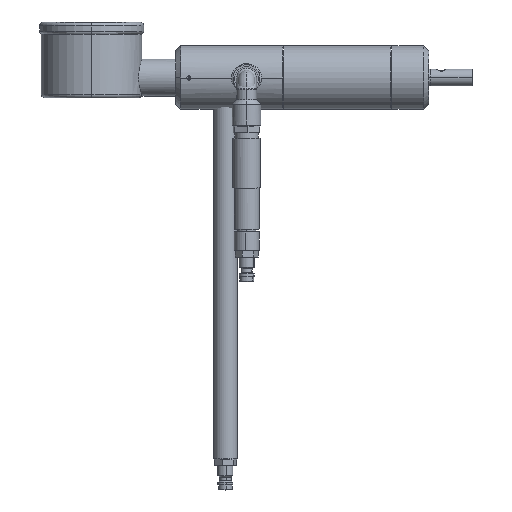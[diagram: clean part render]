
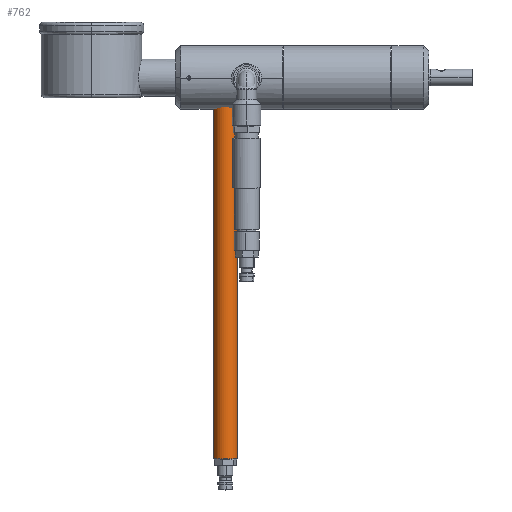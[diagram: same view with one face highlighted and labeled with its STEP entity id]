
A CAD part, left-side view. The second image highlights one B-rep face of the part: STEP entity #762.
In plain terms, the highlighted cylindrical face has radius 7 mm (diameter 14 mm), a partial arc.
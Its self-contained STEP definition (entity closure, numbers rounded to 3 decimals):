
#52 = EDGE_CURVE ( 'NONE', #1307, #4194, #6900, .T. ) ;
#56 = DIRECTION ( 'NONE',  ( 0., 0., 1. ) ) ;
#242 = CYLINDRICAL_SURFACE ( 'NONE', #9042, 7. ) ;
#437 = CARTESIAN_POINT ( 'NONE',  ( 0., 0., -7. ) ) ;
#599 = CARTESIAN_POINT ( 'NONE',  ( 0., 220., 7. ) ) ;
#723 = DIRECTION ( 'NONE',  ( 0., 0., -1. ) ) ;
#762 = ADVANCED_FACE ( 'NONE', ( #6482 ), #242, .T. ) ;
#1135 = DIRECTION ( 'NONE',  ( 0., 1., 0. ) ) ;
#1307 = VERTEX_POINT ( 'NONE', #1736 ) ;
#1458 = DIRECTION ( 'NONE',  ( 0., -1., 0. ) ) ;
#1736 = CARTESIAN_POINT ( 'NONE',  ( 0., 219.8, 7. ) ) ;
#1852 = LINE ( 'NONE', #3422, #5364 ) ;
#2525 = DIRECTION ( 'NONE',  ( 0., -1., 0. ) ) ;
#3233 = EDGE_LOOP ( 'NONE', ( #8938, #5045, #4764, #6266 ) ) ;
#3277 = VECTOR ( 'NONE', #4064, 1000. ) ;
#3422 = CARTESIAN_POINT ( 'NONE',  ( 0., 220., -7. ) ) ;
#3581 = AXIS2_PLACEMENT_3D ( 'NONE', #5314, #1135, #6020 ) ;
#3619 = EDGE_CURVE ( 'NONE', #6338, #7867, #7826, .T. ) ;
#4064 = DIRECTION ( 'NONE',  ( 0., -1., 0. ) ) ;
#4194 = VERTEX_POINT ( 'NONE', #7846 ) ;
#4586 = EDGE_CURVE ( 'NONE', #4194, #6338, #1852, .T. ) ;
#4624 = CARTESIAN_POINT ( 'NONE',  ( 0., 220., 0. ) ) ;
#4764 = ORIENTED_EDGE ( 'NONE', *, *, #4586, .T. ) ;
#5045 = ORIENTED_EDGE ( 'NONE', *, *, #52, .T. ) ;
#5084 = CARTESIAN_POINT ( 'NONE',  ( 0., 0., 7. ) ) ;
#5314 = CARTESIAN_POINT ( 'NONE',  ( 0., 0., 0. ) ) ;
#5364 = VECTOR ( 'NONE', #5509, 1000. ) ;
#5509 = DIRECTION ( 'NONE',  ( 0., -1., 0. ) ) ;
#5913 = EDGE_CURVE ( 'NONE', #1307, #7867, #8891, .T. ) ;
#6020 = DIRECTION ( 'NONE',  ( 0., 0., 1. ) ) ;
#6022 = AXIS2_PLACEMENT_3D ( 'NONE', #8313, #1458, #56 ) ;
#6266 = ORIENTED_EDGE ( 'NONE', *, *, #3619, .T. ) ;
#6338 = VERTEX_POINT ( 'NONE', #437 ) ;
#6482 = FACE_OUTER_BOUND ( 'NONE', #3233, .T. ) ;
#6900 = CIRCLE ( 'NONE', #6022, 7. ) ;
#7826 = CIRCLE ( 'NONE', #3581, 7. ) ;
#7846 = CARTESIAN_POINT ( 'NONE',  ( 0., 219.8, -7. ) ) ;
#7867 = VERTEX_POINT ( 'NONE', #5084 ) ;
#8313 = CARTESIAN_POINT ( 'NONE',  ( 0., 219.8, 0. ) ) ;
#8891 = LINE ( 'NONE', #599, #3277 ) ;
#8938 = ORIENTED_EDGE ( 'NONE', *, *, #5913, .F. ) ;
#9042 = AXIS2_PLACEMENT_3D ( 'NONE', #4624, #2525, #723 ) ;
